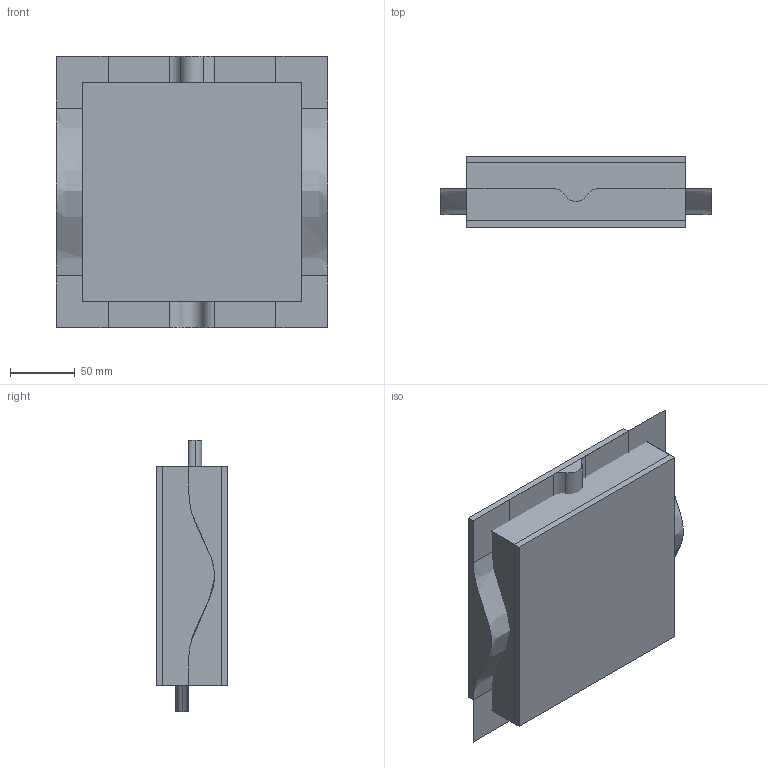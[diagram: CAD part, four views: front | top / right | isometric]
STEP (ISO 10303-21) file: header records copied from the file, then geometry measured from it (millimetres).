
FILE_DESCRIPTION(('CATIA V5 STEP Exchange'),'2;1');
FILE_NAME('C:\_Andres\UNIVERSIDAD\IQS\ASIGNATURAS\DAO\EXF\EXF-16172c\2inicio\Salazar_Martin_Ej02_v30.stp','2017-03-05T15:45:37+00:00',('none'),('none'),'CATIA Version 5-6 Release 2014 SP1 HF18','CATIA V5 STEP AP203','none');
FILE_SCHEMA(('CONFIG_CONTROL_DESIGN'));
Length unit declared in the file: millimetre
Products named in the file (1): Salazar_Martin_Ej02_v30
Bounding box: 210 x 55 x 210 mm (x, y, z)
Surface area: 286996.1 mm2
Topology: 3 solids, 10 shells, 72 faces, 205 edges, 150 vertices
Faces by surface type: bspline 32, plane 32, cylinder 6, extrusion 2
Entity records: 5732 total; most frequent: CARTESIAN_POINT 4415, ORIENTED_EDGE 288, DIRECTION 151, EDGE_CURVE 132, VERTEX_POINT 84, VECTOR 77, LINE 75, ADVANCED_FACE 72
